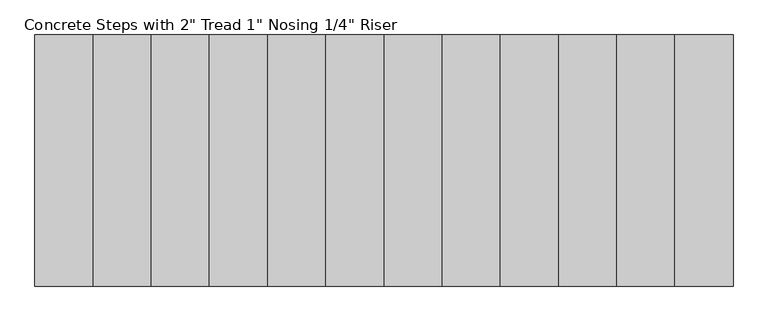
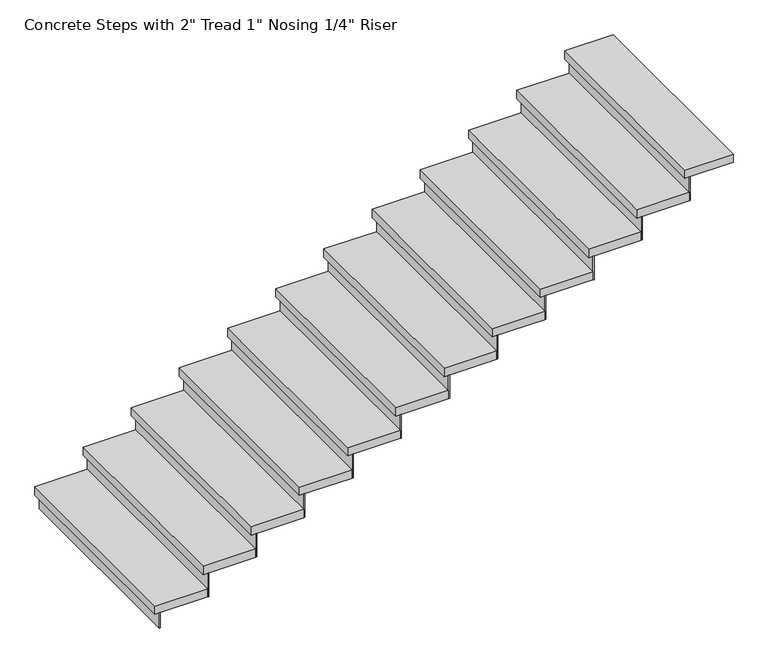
"""IFC4 building model written with IfcOpenShell, lengths in millimetres: stair flight geometry."""

from ifc_helpers import new_model, si_unit, frame, origin, origin_with_axes, place, context, project, spatial, polyline, outline, extrude, source, transform, mapped, element, save


def stair_flight_2a23c924(model_context):
    return source(origin(), model_context, "Body", "SweptSolid", [
        extrude(outline(polyline([(-14096.7313244, -31423.1861116), (-14103.0813244, -31423.1861116), (-14103.0813244, -30217.3006776), (-14096.7313244, -30217.3006776), (-14096.7313244, -31423.1861116)])), origin_with_axes(), (0.0, 0.0, 1.0), 94.3428571),
        extrude(outline(polyline([(-13823.6813244, -30217.3006776), (-13823.6813244, -31423.1861116), (-14128.4813244, -31423.1861116), (-14128.4813244, -30217.3006776), (-13823.6813244, -30217.3006776)])), frame((0.0, 0.0, 94.3428571), z_axis=(0.0, 0.0, 1.0), x_axis=(1.0, 0.0, 0.0)), (0.0, 0.0, 1.0), 50.8),
        extrude(outline(polyline([(-13817.3313244, -31423.1861116), (-13823.6813244, -31423.1861116), (-13823.6813244, -30217.3006776), (-13817.3313244, -30217.3006776), (-13817.3313244, -31423.1861116)])), frame((0.0, 0.0, 94.3428571), z_axis=(0.0, 0.0, 1.0), x_axis=(1.0, 0.0, 0.0)), (0.0, 0.0, 1.0), 145.1428571),
        extrude(outline(polyline([(-13544.2813244, -30217.3006776), (-13544.2813244, -31423.1861116), (-13849.0813244, -31423.1861116), (-13849.0813244, -30217.3006776), (-13544.2813244, -30217.3006776)])), frame((0.0, 0.0, 239.4857143), z_axis=(0.0, 0.0, 1.0), x_axis=(1.0, 0.0, 0.0)), (0.0, 0.0, 1.0), 50.8),
        extrude(outline(polyline([(-13537.9313244, -31423.1861116), (-13544.2813244, -31423.1861116), (-13544.2813244, -30217.3006776), (-13537.9313244, -30217.3006776), (-13537.9313244, -31423.1861116)])), frame((0.0, 0.0, 239.4857143), z_axis=(0.0, 0.0, 1.0), x_axis=(1.0, 0.0, 0.0)), (0.0, 0.0, 1.0), 145.1428571),
        extrude(outline(polyline([(-13264.8813244, -30217.3006776), (-13264.8813244, -31423.1861116), (-13569.6813244, -31423.1861116), (-13569.6813244, -30217.3006776), (-13264.8813244, -30217.3006776)])), frame((0.0, 0.0, 384.6285714), z_axis=(0.0, 0.0, 1.0), x_axis=(1.0, 0.0, 0.0)), (0.0, 0.0, 1.0), 50.8),
        extrude(outline(polyline([(-13258.5313244, -31423.1861116), (-13264.8813244, -31423.1861116), (-13264.8813244, -30217.3006776), (-13258.5313244, -30217.3006776), (-13258.5313244, -31423.1861116)])), frame((0.0, 0.0, 384.6285714), z_axis=(0.0, 0.0, 1.0), x_axis=(1.0, 0.0, 0.0)), (0.0, 0.0, 1.0), 145.1428571),
        extrude(outline(polyline([(-12985.4813244, -30217.3006776), (-12985.4813244, -31423.1861116), (-13290.2813244, -31423.1861116), (-13290.2813244, -30217.3006776), (-12985.4813244, -30217.3006776)])), frame((0.0, 0.0, 529.7714286), z_axis=(0.0, 0.0, 1.0), x_axis=(1.0, 0.0, 0.0)), (0.0, 0.0, 1.0), 50.8),
        extrude(outline(polyline([(-12979.1313244, -31423.1861116), (-12985.4813244, -31423.1861116), (-12985.4813244, -30217.3006776), (-12979.1313244, -30217.3006776), (-12979.1313244, -31423.1861116)])), frame((0.0, 0.0, 529.7714286), z_axis=(0.0, 0.0, 1.0), x_axis=(1.0, 0.0, 0.0)), (0.0, 0.0, 1.0), 145.1428571),
        extrude(outline(polyline([(-12706.0813244, -30217.3006776), (-12706.0813244, -31423.1861116), (-13010.8813244, -31423.1861116), (-13010.8813244, -30217.3006776), (-12706.0813244, -30217.3006776)])), frame((0.0, 0.0, 674.9142857), z_axis=(0.0, 0.0, 1.0), x_axis=(1.0, 0.0, 0.0)), (0.0, 0.0, 1.0), 50.8),
        extrude(outline(polyline([(-12699.7313244, -31423.1861116), (-12706.0813244, -31423.1861116), (-12706.0813244, -30217.3006776), (-12699.7313244, -30217.3006776), (-12699.7313244, -31423.1861116)])), frame((0.0, 0.0, 674.9142857), z_axis=(0.0, 0.0, 1.0), x_axis=(1.0, 0.0, 0.0)), (0.0, 0.0, 1.0), 145.1428571),
        extrude(outline(polyline([(-12426.6813244, -30217.3006776), (-12426.6813244, -31423.1861116), (-12731.4813244, -31423.1861116), (-12731.4813244, -30217.3006776), (-12426.6813244, -30217.3006776)])), frame((0.0, 0.0, 820.0571429), z_axis=(0.0, 0.0, 1.0), x_axis=(1.0, 0.0, 0.0)), (0.0, 0.0, 1.0), 50.8),
        extrude(outline(polyline([(-12420.3313244, -31423.1861116), (-12426.6813244, -31423.1861116), (-12426.6813244, -30217.3006776), (-12420.3313244, -30217.3006776), (-12420.3313244, -31423.1861116)])), frame((0.0, 0.0, 820.0571429), z_axis=(0.0, 0.0, 1.0), x_axis=(1.0, 0.0, 0.0)), (0.0, 0.0, 1.0), 145.1428571),
        extrude(outline(polyline([(-12147.2813244, -30217.3006776), (-12147.2813244, -31423.1861116), (-12452.0813244, -31423.1861116), (-12452.0813244, -30217.3006776), (-12147.2813244, -30217.3006776)])), frame((0.0, 0.0, 965.2), z_axis=(0.0, 0.0, 1.0), x_axis=(1.0, 0.0, 0.0)), (0.0, 0.0, 1.0), 50.8),
        extrude(outline(polyline([(-12140.9313244, -31423.1861116), (-12147.2813244, -31423.1861116), (-12147.2813244, -30217.3006776), (-12140.9313244, -30217.3006776), (-12140.9313244, -31423.1861116)])), frame((0.0, 0.0, 965.2), z_axis=(0.0, 0.0, 1.0), x_axis=(1.0, 0.0, 0.0)), (0.0, 0.0, 1.0), 145.1428571),
        extrude(outline(polyline([(-11867.8813244, -30217.3006776), (-11867.8813244, -31423.1861116), (-12172.6813244, -31423.1861116), (-12172.6813244, -30217.3006776), (-11867.8813244, -30217.3006776)])), frame((0.0, 0.0, 1110.3428571), z_axis=(0.0, 0.0, 1.0), x_axis=(1.0, 0.0, 0.0)), (0.0, 0.0, 1.0), 50.8),
        extrude(outline(polyline([(-11861.5313244, -31423.1861116), (-11867.8813244, -31423.1861116), (-11867.8813244, -30217.3006776), (-11861.5313244, -30217.3006776), (-11861.5313244, -31423.1861116)])), frame((0.0, 0.0, 1110.3428571), z_axis=(0.0, 0.0, 1.0), x_axis=(1.0, 0.0, 0.0)), (0.0, 0.0, 1.0), 145.1428571),
        extrude(outline(polyline([(-11588.4813244, -30217.3006776), (-11588.4813244, -31423.1861116), (-11893.2813244, -31423.1861116), (-11893.2813244, -30217.3006776), (-11588.4813244, -30217.3006776)])), frame((0.0, 0.0, 1255.4857143), z_axis=(0.0, 0.0, 1.0), x_axis=(1.0, 0.0, 0.0)), (0.0, 0.0, 1.0), 50.8),
        extrude(outline(polyline([(-11582.1313244, -31423.1861116), (-11588.4813244, -31423.1861116), (-11588.4813244, -30217.3006776), (-11582.1313244, -30217.3006776), (-11582.1313244, -31423.1861116)])), frame((0.0, 0.0, 1255.4857143), z_axis=(0.0, 0.0, 1.0), x_axis=(1.0, 0.0, 0.0)), (0.0, 0.0, 1.0), 145.1428571),
        extrude(outline(polyline([(-11309.0813244, -30217.3006776), (-11309.0813244, -31423.1861116), (-11613.8813244, -31423.1861116), (-11613.8813244, -30217.3006776), (-11309.0813244, -30217.3006776)])), frame((0.0, 0.0, 1400.6285714), z_axis=(0.0, 0.0, 1.0), x_axis=(1.0, 0.0, 0.0)), (0.0, 0.0, 1.0), 50.8),
        extrude(outline(polyline([(-11302.7313244, -31423.1861116), (-11309.0813244, -31423.1861116), (-11309.0813244, -30217.3006776), (-11302.7313244, -30217.3006776), (-11302.7313244, -31423.1861116)])), frame((0.0, 0.0, 1400.6285714), z_axis=(0.0, 0.0, 1.0), x_axis=(1.0, 0.0, 0.0)), (0.0, 0.0, 1.0), 145.1428571),
        extrude(outline(polyline([(-11029.6813244, -30217.3006776), (-11029.6813244, -31423.1861116), (-11334.4813244, -31423.1861116), (-11334.4813244, -30217.3006776), (-11029.6813244, -30217.3006776)])), frame((0.0, 0.0, 1545.7714286), z_axis=(0.0, 0.0, 1.0), x_axis=(1.0, 0.0, 0.0)), (0.0, 0.0, 1.0), 50.8),
        extrude(outline(polyline([(-11023.3313244, -31423.1861116), (-11029.6813244, -31423.1861116), (-11029.6813244, -30217.3006776), (-11023.3313244, -30217.3006776), (-11023.3313244, -31423.1861116)])), frame((0.0, 0.0, 1545.7714286), z_axis=(0.0, 0.0, 1.0), x_axis=(1.0, 0.0, 0.0)), (0.0, 0.0, 1.0), 145.1428571),
        extrude(outline(polyline([(-10775.6813244, -30217.3006776), (-10775.6813244, -31423.1861116), (-11055.0813244, -31423.1861116), (-11055.0813244, -30217.3006776), (-10775.6813244, -30217.3006776)])), frame((0.0, 0.0, 1690.9142857), z_axis=(0.0, 0.0, 1.0), x_axis=(1.0, 0.0, 0.0)), (0.0, 0.0, 1.0), 50.8),
    ])


if __name__ == "__main__":
    model = new_model("IFC4")
    model_context = context("Model", 3, world=origin())
    ifc_project = project(units=[si_unit("LENGTHUNIT", "METRE", prefix="MILLI")], contexts=[model_context])
    site = spatial("IfcSite", under=ifc_project)
    building = spatial("IfcBuilding", under=site)
    placement = place(None, origin())
    stair_flight_shape = stair_flight_2a23c924(model_context)
    element("IfcStairFlight", 1, ObjectType="Concrete Steps with 2\" Tread 1\" Nosing 1/4\" Riser", at=placement, inside=building, context=model_context, shape_type="MappedRepresentation", body=[
        mapped(stair_flight_shape, transform((0.0, 0.0, 0.0), x_axis=(1.0, 0.0, 0.0), y_axis=(0.0, 1.0, 0.0), z_axis=(0.0, 0.0, 1.0))),
    ])
    save(model, "model.ifc")
